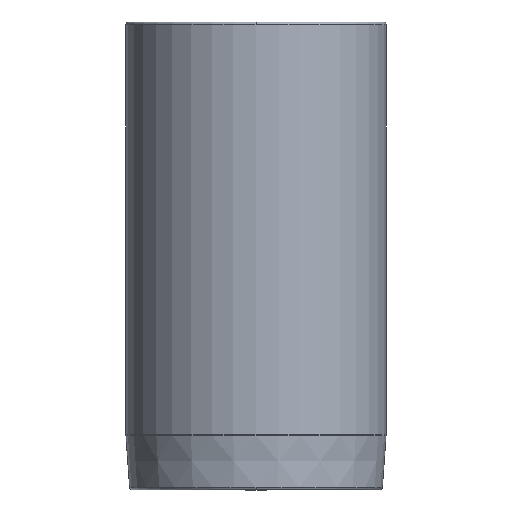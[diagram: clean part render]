
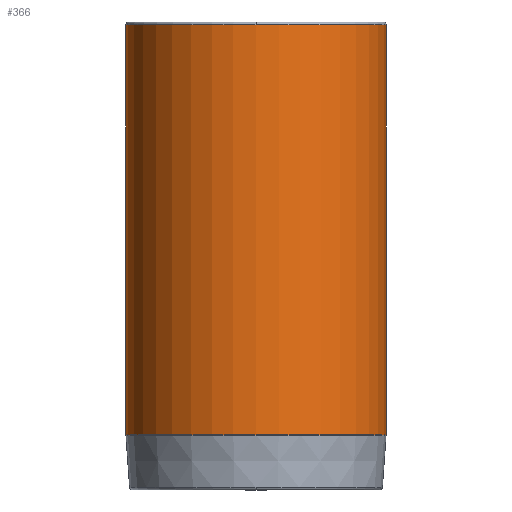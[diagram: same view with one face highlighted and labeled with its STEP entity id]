
A CAD part, front view. The second image highlights one B-rep face of the part: STEP entity #366.
In plain terms, the highlighted cylindrical face has radius 23.625 mm (diameter 47.25 mm), a partial arc.
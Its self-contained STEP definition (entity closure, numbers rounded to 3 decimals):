
#271=CARTESIAN_POINT('',(0.0,-23.625,41.5));
#272=VERTEX_POINT('',#271);
#298=CARTESIAN_POINT('',(-23.625,0.,41.5));
#299=VERTEX_POINT('',#298);
#307=CARTESIAN_POINT('',(0.0,0.,41.5));
#308=DIRECTION('',(0.0,0.0,1.0));
#309=DIRECTION('',(1.0,0.0,0.0));
#310=AXIS2_PLACEMENT_3D('',#307,#308,#309);
#311=CIRCLE('',#310,23.625);
#312=EDGE_CURVE('',#299,#272,#311,.T.);
#317=CARTESIAN_POINT('',(0.0,0.,4.267));
#318=DIRECTION('',(0.0,0.,1.0));
#319=DIRECTION('',(1.0,0.0,0.0));
#320=AXIS2_PLACEMENT_3D('',#317,#318,#319);
#321=CYLINDRICAL_SURFACE('',#320,23.625);
#322=CARTESIAN_POINT('',(23.625,0.,41.5));
#323=VERTEX_POINT('',#322);
#324=CARTESIAN_POINT('',(23.625,0.,-32.965));
#325=VERTEX_POINT('',#324);
#326=CARTESIAN_POINT('',(23.625,0.,41.5));
#327=DIRECTION('',(0.0,0.0,-1.0));
#328=VECTOR('',#327,74.465);
#329=LINE('',#326,#328);
#330=EDGE_CURVE('',#323,#325,#329,.T.);
#331=ORIENTED_EDGE('',*,*,#330,.F.);
#332=CARTESIAN_POINT('',(0.0,0.,41.5));
#333=DIRECTION('',(0.0,0.0,1.0));
#334=DIRECTION('',(1.0,0.0,0.0));
#335=AXIS2_PLACEMENT_3D('',#332,#333,#334);
#336=CIRCLE('',#335,23.625);
#337=EDGE_CURVE('',#272,#323,#336,.T.);
#338=ORIENTED_EDGE('',*,*,#337,.F.);
#339=ORIENTED_EDGE('',*,*,#312,.F.);
#340=CARTESIAN_POINT('',(-23.625,0.,-32.965));
#341=VERTEX_POINT('',#340);
#342=CARTESIAN_POINT('',(-23.625,0.,41.5));
#343=DIRECTION('',(0.0,0.0,-1.0));
#344=VECTOR('',#343,74.465);
#345=LINE('',#342,#344);
#346=EDGE_CURVE('',#299,#341,#345,.T.);
#347=ORIENTED_EDGE('',*,*,#346,.T.);
#348=CARTESIAN_POINT('',(0.0,-23.625,-32.965));
#349=VERTEX_POINT('',#348);
#350=CARTESIAN_POINT('',(0.0,0.,-32.965));
#351=DIRECTION('',(0.0,0.0,1.0));
#352=DIRECTION('',(1.0,0.0,0.0));
#353=AXIS2_PLACEMENT_3D('',#350,#351,#352);
#354=CIRCLE('',#353,23.625);
#355=EDGE_CURVE('',#341,#349,#354,.T.);
#356=ORIENTED_EDGE('',*,*,#355,.T.);
#357=CARTESIAN_POINT('',(0.0,0.,-32.965));
#358=DIRECTION('',(0.0,0.0,1.0));
#359=DIRECTION('',(1.0,0.0,0.0));
#360=AXIS2_PLACEMENT_3D('',#357,#358,#359);
#361=CIRCLE('',#360,23.625);
#362=EDGE_CURVE('',#349,#325,#361,.T.);
#363=ORIENTED_EDGE('',*,*,#362,.T.);
#364=EDGE_LOOP('',(#331,#338,#339,#347,#356,#363));
#365=FACE_OUTER_BOUND('',#364,.T.);
#366=ADVANCED_FACE('',(#365),#321,.T.);
